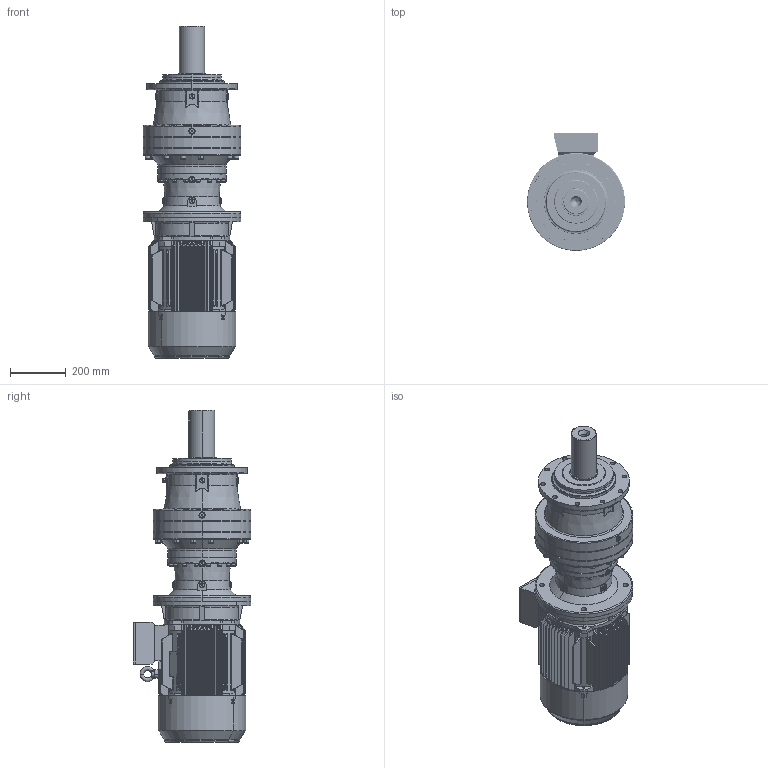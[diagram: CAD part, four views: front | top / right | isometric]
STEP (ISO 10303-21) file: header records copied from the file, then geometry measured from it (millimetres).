
FILE_DESCRIPTION (( 'STEP AP203' ), '1' );
FILE_NAME ('PVL-2302L-HS160M-4.STEP', '2019-05-27T08:06:35', ( '' ), ( '' ), 'SwSTEP 2.0', 'SolidWorks 2012', '' );
FILE_SCHEMA (( 'CONFIG_CONTROL_DESIGN' ));
Products named in the file (18): M3-160M-FF-B5; PVL-2302L-HS160M-4; Y2-160_shaft; M3-HS160M-FF-B5; +ª+§ªiY2-160ñ»ª­_-++ñ; Y2-160ñ»ª­+¿_-++ñ; Y2-160M+À+¿(B5)_-++ñ; Y2-160-180ñ»ª­®+_-++ñ; +¦i-MN2-160_-++ñ; Eyebolts GB_GB_FASTENER_SCREWS_FRS M12; Y2-160-2ª¥--®+_-++ñ; Y2-160-4Ý¾6Ý¾8-ª+---®+_-++ñ; FL7A_Varsayìlan; EK2302L_Varsayìlan; PNL_2302L_0_0_A16_B5_ML31A_FL7A_0_0_0_0_0_0_0_0_0_0_0_M1; P23_Varsayìlan; ML31A_Varsayìlan; 15160B5_Varsayìlan
Assembly tree (17 placements, depth 5):
  PVL-2302L-HS160M-4
    PNL_2302L_0_0_A16_B5_ML31A_FL7A_0_0_0_0_0_0_0_0_0_0_0_M1
      P23_Varsayìlan
      15160B5_Varsayìlan
      ML31A_Varsayìlan
      EK2302L_Varsayìlan
      FL7A_Varsayìlan
    M3-HS160M-FF-B5
      M3-160M-FF-B5
        Eyebolts GB_GB_FASTENER_SCREWS_FRS M12
        Y2-160-4Ý¾6Ý¾8-ª+---®+_-++ñ
        +¦i-MN2-160_-++ñ
        Y2-160-2ª¥--®+_-++ñ
        +ª+§ªiY2-160ñ»ª­_-++ñ
          Y2-160-180ñ»ª­®+_-++ñ
          Y2-160ñ»ª­+¿_-++ñ
        Y2-160M+À+¿(B5)_-++ñ
        Y2-160_shaft
Bounding box: 350 x 422 x 1188.5 mm (x, y, z)
Volume: 38422497.1 mm3; surface area: 3692996.7 mm2
Topology: 17 solids, 17 shells, 4002 faces, 10211 edges, 6286 vertices
Faces by surface type: cylinder 1402, plane 1238, cone 727, bspline 532, torus 63, sphere 40
Entity records: 174495 total; most frequent: CARTESIAN_POINT 80275, ORIENTED_EDGE 20134, DIRECTION 18445, EDGE_CURVE 10067, AXIS2_PLACEMENT_3D 7137, VERTEX_POINT 6271, EDGE_LOOP 4352, LINE 4171
